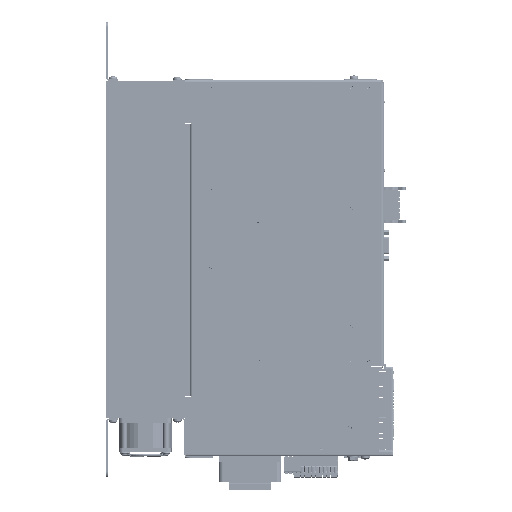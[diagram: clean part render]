
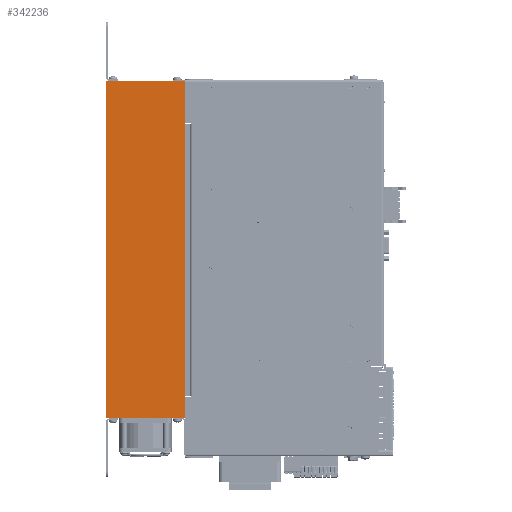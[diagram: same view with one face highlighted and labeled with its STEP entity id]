
A CAD part, left-side view. The second image highlights one B-rep face of the part: STEP entity #342236.
In plain terms, the highlighted planar face has unit normal (-1, 0, 0).
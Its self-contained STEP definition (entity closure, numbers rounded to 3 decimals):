
#17496=LINE('',#473094,#54129);
#17669=LINE('',#473547,#54302);
#17843=LINE('',#474003,#54476);
#17993=LINE('',#474276,#54626);
#54129=VECTOR('',#387380,10.);
#54302=VECTOR('',#387663,10.);
#54476=VECTOR('',#387951,10.);
#54626=VECTOR('',#388347,10.);
#90853=PLANE('',#362907);
#109096=FACE_OUTER_BOUND('',#128141,.T.);
#128141=EDGE_LOOP('',(#241639,#241640,#241641,#241642));
#156528=VERTEX_POINT('',#473091);
#156529=VERTEX_POINT('',#473093);
#156754=VERTEX_POINT('',#473545);
#156979=VERTEX_POINT('',#474001);
#190067=EDGE_CURVE('',#156529,#156528,#17496,.T.);
#190294=EDGE_CURVE('',#156528,#156754,#17669,.T.);
#190522=EDGE_CURVE('',#156754,#156979,#17843,.T.);
#190672=EDGE_CURVE('',#156529,#156979,#17993,.T.);
#241639=ORIENTED_EDGE('',*,*,#190294,.T.);
#241640=ORIENTED_EDGE('',*,*,#190522,.T.);
#241641=ORIENTED_EDGE('',*,*,#190672,.F.);
#241642=ORIENTED_EDGE('',*,*,#190067,.T.);
#342236=ADVANCED_FACE('',(#109096),#90853,.T.);
#362907=AXIS2_PLACEMENT_3D('',#474275,#388345,#388346);
#387380=DIRECTION('',(0.,-1.,0.));
#387663=DIRECTION('',(0.,0.,1.));
#387951=DIRECTION('',(0.,1.,0.));
#388345=DIRECTION('center_axis',(-1.,0.,0.));
#388346=DIRECTION('ref_axis',(0.,0.,1.));
#388347=DIRECTION('',(0.,0.,1.));
#473091=CARTESIAN_POINT('',(-48.671,-48.783,0.));
#473093=CARTESIAN_POINT('',(-48.671,26.217,0.));
#473094=CARTESIAN_POINT('',(-48.671,26.217,0.));
#473545=CARTESIAN_POINT('',(-48.671,-48.783,320.));
#473547=CARTESIAN_POINT('',(-48.671,-48.783,80.));
#474001=CARTESIAN_POINT('',(-48.671,26.217,320.));
#474003=CARTESIAN_POINT('',(-48.671,26.217,320.));
#474275=CARTESIAN_POINT('Origin',(-48.671,-49.783,0.));
#474276=CARTESIAN_POINT('',(-48.671,26.217,0.));
